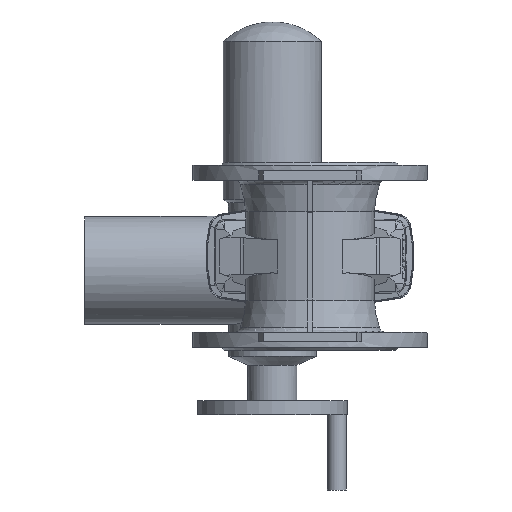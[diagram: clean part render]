
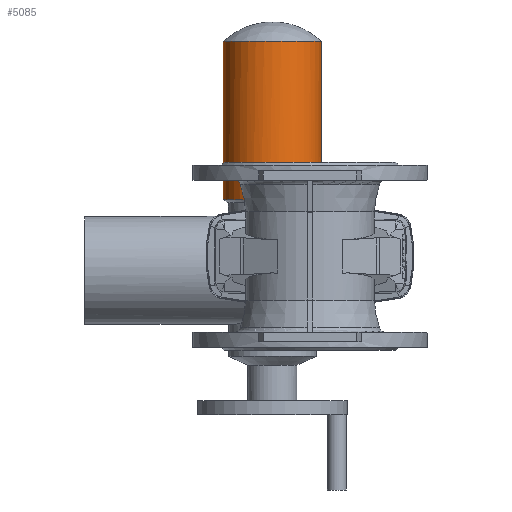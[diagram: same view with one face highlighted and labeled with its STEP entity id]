
A CAD part, front view. The second image highlights one B-rep face of the part: STEP entity #5085.
In plain terms, the highlighted cylindrical face has radius 52.5 mm (diameter 105 mm), a full revolution.
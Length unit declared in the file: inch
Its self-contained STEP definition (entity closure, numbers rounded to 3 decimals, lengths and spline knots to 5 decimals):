
#1109 = CIRCLE ( 'NONE', #2238, 2.06693 ) ;
#1227 = CIRCLE ( 'NONE', #2265, 2.06693 ) ;
#1582 = VERTEX_POINT ( 'NONE', #5719 ) ;
#2238 = AXIS2_PLACEMENT_3D ( 'NONE', #3728, #3729, #3730 ) ;
#2265 = AXIS2_PLACEMENT_3D ( 'NONE', #4546, #4547, #4548 ) ;
#2409 = CARTESIAN_POINT ( 'NONE',  ( -0.66926, 17.17297, 2.36787 ) ) ;
#2421 = CARTESIAN_POINT ( 'NONE',  ( -0.66926, 13.45696, 2.36787 ) ) ;
#3728 = CARTESIAN_POINT ( 'NONE',  ( -1.5748, 15.31496, 9.01387 ) ) ;
#3729 = DIRECTION ( 'NONE',  ( 0., 0., -1. ) ) ;
#3730 = DIRECTION ( 'NONE',  ( -1., 0., 0. ) ) ;
#3851 = CARTESIAN_POINT ( 'NONE',  ( -0.62708, 13.47751, 2.37979 ) ) ;
#3859 = CARTESIAN_POINT ( 'NONE',  ( -0.66926, 13.45696, 2.36787 ) ) ;
#3861 = CARTESIAN_POINT ( 'NONE',  ( -0.58486, 13.49989, 2.39049 ) ) ;
#3862 = CARTESIAN_POINT ( 'NONE',  ( -0.5023, 13.54742, 2.40919 ) ) ;
#3863 = CARTESIAN_POINT ( 'NONE',  ( -0.46185, 13.5726, 2.41723 ) ) ;
#3864 = CARTESIAN_POINT ( 'NONE',  ( -0.34306, 13.6524, 2.43792 ) ) ;
#3865 = CARTESIAN_POINT ( 'NONE',  ( -0.26727, 13.71123, 2.44714 ) ) ;
#3866 = CARTESIAN_POINT ( 'NONE',  ( -0.15912, 13.80818, 2.45575 ) ) ;
#3867 = CARTESIAN_POINT ( 'NONE',  ( -0.1239, 13.84206, 2.45774 ) ) ;
#3868 = CARTESIAN_POINT ( 'NONE',  ( -0.05644, 13.91171, 2.46021 ) ) ;
#3869 = CARTESIAN_POINT ( 'NONE',  ( -0.02406, 13.94758, 2.46071 ) ) ;
#3870 = CARTESIAN_POINT ( 'NONE',  ( 0.06907, 14.05831, 2.46044 ) ) ;
#3871 = CARTESIAN_POINT ( 'NONE',  ( 0.12584, 14.13624, 2.45795 ) ) ;
#3872 = CARTESIAN_POINT ( 'NONE',  ( 0.20293, 14.25941, 2.45238 ) ) ;
#3873 = CARTESIAN_POINT ( 'NONE',  ( 0.22735, 14.30166, 2.45021 ) ) ;
#3874 = CARTESIAN_POINT ( 'NONE',  ( 0.27285, 14.38721, 2.44556 ) ) ;
#3875 = CARTESIAN_POINT ( 'NONE',  ( 0.29399, 14.43059, 2.44308 ) ) ;
#3876 = CARTESIAN_POINT ( 'NONE',  ( 0.35268, 14.56247, 2.43554 ) ) ;
#3877 = CARTESIAN_POINT ( 'NONE',  ( 0.38554, 14.65273, 2.43039 ) ) ;
#3878 = CARTESIAN_POINT ( 'NONE',  ( 0.42538, 14.79171, 2.42362 ) ) ;
#3879 = CARTESIAN_POINT ( 'NONE',  ( 0.43708, 14.83863, 2.42152 ) ) ;
#3880 = CARTESIAN_POINT ( 'NONE',  ( 0.4522, 14.90995, 2.41873 ) ) ;
#3881 = CARTESIAN_POINT ( 'NONE',  ( 0.45684, 14.93387, 2.41785 ) ) ;
#3882 = CARTESIAN_POINT ( 'NONE',  ( 0.46522, 14.98165, 2.41626 ) ) ;
#3883 = CARTESIAN_POINT ( 'NONE',  ( 0.46898, 15.00556, 2.41553 ) ) ;
#3884 = CARTESIAN_POINT ( 'NONE',  ( 0.48566, 15.12514, 2.41227 ) ) ;
#3885 = CARTESIAN_POINT ( 'NONE',  ( 0.49222, 15.221, 2.4109 ) ) ;
#3886 = CARTESIAN_POINT ( 'NONE',  ( 0.49203, 15.41312, 2.41094 ) ) ;
#3887 = CARTESIAN_POINT ( 'NONE',  ( 0.48526, 15.50941, 2.41235 ) ) ;
#3888 = CARTESIAN_POINT ( 'NONE',  ( 0.45785, 15.70228, 2.4177 ) ) ;
#3889 = CARTESIAN_POINT ( 'NONE',  ( 0.43753, 15.79657, 2.42157 ) ) ;
#3890 = CARTESIAN_POINT ( 'NONE',  ( 0.3842, 15.98109, 2.4306 ) ) ;
#3891 = CARTESIAN_POINT ( 'NONE',  ( 0.35119, 16.07131, 2.43576 ) ) ;
#3892 = CARTESIAN_POINT ( 'NONE',  ( 0.30185, 16.18154, 2.44207 ) ) ;
#3893 = CARTESIAN_POINT ( 'NONE',  ( 0.29157, 16.20346, 2.44332 ) ) ;
#3894 = CARTESIAN_POINT ( 'NONE',  ( 0.2702, 16.24704, 2.44577 ) ) ;
#3895 = CARTESIAN_POINT ( 'NONE',  ( 0.25908, 16.26872, 2.44698 ) ) ;
#3896 = CARTESIAN_POINT ( 'NONE',  ( 0.22475, 16.33287, 2.45045 ) ) ;
#3897 = CARTESIAN_POINT ( 'NONE',  ( 0.20049, 16.37461, 2.45258 ) ) ;
#3898 = CARTESIAN_POINT ( 'NONE',  ( 0.12362, 16.49683, 2.45806 ) ) ;
#3899 = CARTESIAN_POINT ( 'NONE',  ( 0.06698, 16.57432, 2.4605 ) ) ;
#3900 = CARTESIAN_POINT ( 'NONE',  ( -0.02606, 16.6846, 2.46069 ) ) ;
#3901 = CARTESIAN_POINT ( 'NONE',  ( -0.05842, 16.72036, 2.46017 ) ) ;
#3902 = CARTESIAN_POINT ( 'NONE',  ( -0.12592, 16.78985, 2.45764 ) ) ;
#3903 = CARTESIAN_POINT ( 'NONE',  ( -0.16121, 16.8237, 2.45561 ) ) ;
#3904 = CARTESIAN_POINT ( 'NONE',  ( -0.26942, 16.92043, 2.44691 ) ) ;
#3905 = CARTESIAN_POINT ( 'NONE',  ( -0.34504, 16.97895, 2.43763 ) ) ;
#3906 = CARTESIAN_POINT ( 'NONE',  ( -0.50254, 17.08455, 2.41009 ) ) ;
#3907 = CARTESIAN_POINT ( 'NONE',  ( -0.58444, 17.13163, 2.39184 ) ) ;
#3908 = CARTESIAN_POINT ( 'NONE',  ( -0.66926, 17.17297, 2.36787 ) ) ;
#4546 = CARTESIAN_POINT ( 'NONE',  ( -1.5748, 15.31496, 2.36787 ) ) ;
#4547 = DIRECTION ( 'NONE',  ( 0., 0., -1. ) ) ;
#4548 = DIRECTION ( 'NONE',  ( -1., 0., 0. ) ) ;
#5085 = ADVANCED_FACE ( 'NONE', ( #6524, #6529 ), #6531, .T. ) ;
#5719 = CARTESIAN_POINT ( 'NONE',  ( -3.64173, 15.31496, 9.01387 ) ) ;
#5961 = AXIS2_PLACEMENT_3D ( 'NONE', #7253, #7254, #7252 ) ;
#6524 = FACE_OUTER_BOUND ( 'NONE', #9801, .T. ) ;
#6529 = FACE_OUTER_BOUND ( 'NONE', #9736, .T. ) ;
#6531 = CYLINDRICAL_SURFACE ( 'NONE', #5961, 2.06693 ) ;
#7000 = B_SPLINE_CURVE_WITH_KNOTS ( 'NONE', 3,
 ( #3859, #3851, #3861, #3862, #3863, #3864, #3865, #3866, #3867, #3868, #3869, #3870, #3871, #3872, #3873, #3874, #3875, #3876, #3877, #3878, #3879, #3880, #3881, #3882, #3883, #3884, #3885, #3886, #3887, #3888, #3889, #3890, #3891, #3892, #3893, #3894, #3895, #3896, #3897, #3898, #3899, #3900, #3901, #3902, #3903, #3904, #3905, #3906, #3907, #3908 ),
 .UNSPECIFIED., .F., .F.,
 ( 4, 2, 2, 2, 2, 2, 2, 2, 2, 2, 2, 2, 2, 2, 2, 2, 2, 2, 2, 2, 2, 2, 2, 2, 4 ),
 ( 0.13161, 0.13526, 0.13891, 0.14621, 0.14987, 0.15352, 0.16082, 0.16447, 0.16812, 0.17543, 0.17908, 0.1809, 0.18273, 0.19003, 0.19734, 0.20464, 0.21194, 0.21377, 0.2156, 0.21925, 0.22655, 0.2302, 0.23385, 0.24116, 0.24846 ),
 .UNSPECIFIED. ) ;
#7252 = DIRECTION ( 'NONE',  ( -1., 0., 0. ) ) ;
#7253 = CARTESIAN_POINT ( 'NONE',  ( -1.5748, 15.31496, -0.59055 ) ) ;
#7254 = DIRECTION ( 'NONE',  ( 0., 0., -1. ) ) ;
#7636 = VERTEX_POINT ( 'NONE', #2409 ) ;
#7648 = VERTEX_POINT ( 'NONE', #2421 ) ;
#8745 = ORIENTED_EDGE ( 'NONE', *, *, #9017, .T. ) ;
#8751 = ORIENTED_EDGE ( 'NONE', *, *, #9123, .F. ) ;
#8766 = ORIENTED_EDGE ( 'NONE', *, *, #9035, .T. ) ;
#9017 = EDGE_CURVE ( 'NONE', #1582, #1582, #1109, .T. ) ;
#9035 = EDGE_CURVE ( 'NONE', #7648, #7636, #7000, .T. ) ;
#9123 = EDGE_CURVE ( 'NONE', #7648, #7636, #1227, .T. ) ;
#9736 = EDGE_LOOP ( 'NONE', ( #8751, #8766 ) ) ;
#9801 = EDGE_LOOP ( 'NONE', ( #8745 ) ) ;
